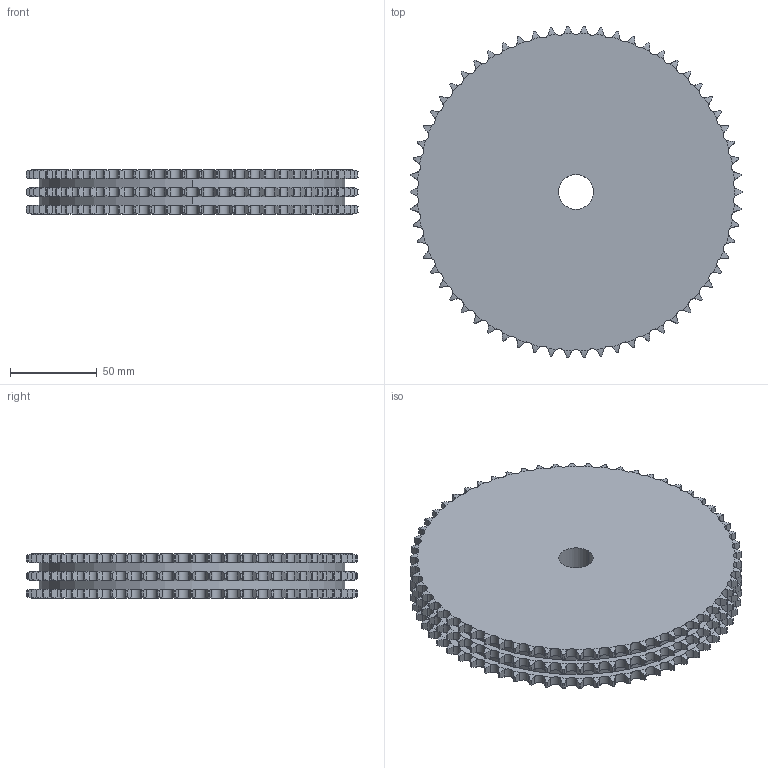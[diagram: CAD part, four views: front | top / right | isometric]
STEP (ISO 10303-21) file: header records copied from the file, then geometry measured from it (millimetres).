
FILE_DESCRIPTION((''),'2;1');
FILE_NAME('500-103-0062_PRT','2021-02-12T',('Brieden'),('Brieden'),'PRO/ENGINEER BY PARAMETRIC TECHNOLOGY CORPORATION, 2010160','PRO/ENGINEER BY PARAMETRIC TECHNOLOGY CORPORATION, 2010160','');
FILE_SCHEMA(('AUTOMOTIVE_DESIGN { 1 0 10303 214 1 1 1 1 }'));
Length unit declared in the file: millimetre
Products named in the file (1): 500-103-0062_PRT
Bounding box: 191.48 x 191.28 x 25.6 mm (x, y, z)
Volume: 655586.7 mm3; surface area: 83934.1 mm2
Topology: 1 solids, 1 shells, 1128 faces, 3366 edges, 2244 vertices
Faces by surface type: cylinder 750, torus 372, plane 6
Entity records: 55042 total; most frequent: CARTESIAN_POINT 16369, ORIENTED_EDGE 6732, DIRECTION 5262, PRESENTATION_STYLE_ASSIGNMENT 3367, STYLED_ITEM 3367, CURVE_STYLE 3366, EDGE_CURVE 3366, AXIS2_PLACEMENT_3D 2256
